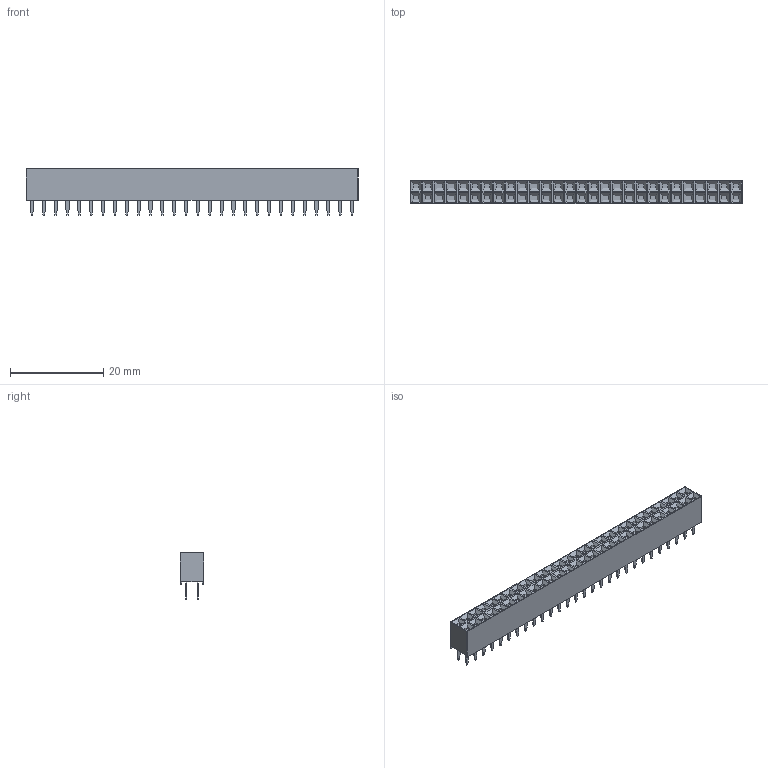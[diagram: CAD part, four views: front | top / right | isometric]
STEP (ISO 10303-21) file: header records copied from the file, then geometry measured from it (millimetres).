
FILE_DESCRIPTION((''),'2;1');
FILE_NAME('C-3-535598-0','2008-02-19T',('workeradm'),('Tyco Electronics Corporation'),'PRO/ENGINEER BY PARAMETRIC TECHNOLOGY CORPORATION, 2005450','PRO/ENGINEER BY PARAMETRIC TECHNOLOGY CORPORATION, 2005450','');
FILE_SCHEMA(('CONFIG_CONTROL_DESIGN', 'GEOMETRIC_VALIDATION_PROPERTIES_MIM'));
Length unit declared in the file: millimetre
Products named in the file (1): C-3-535598-0
Bounding box: 71.12 x 5.03 x 9.91 mm (x, y, z)
Volume: 2152.9 mm3; surface area: 2344.8 mm2
Topology: 1 solids, 1 shells, 914 faces, 2176 edges, 1376 vertices
Faces by surface type: plane 914
Entity records: 25657 total; most frequent: CARTESIAN_POINT 4467, ORIENTED_EDGE 4352, DIRECTION 4004, VECTOR 2176, LINE 2176, EDGE_CURVE 2176, VERTEX_POINT 1376, EDGE_LOOP 1026
